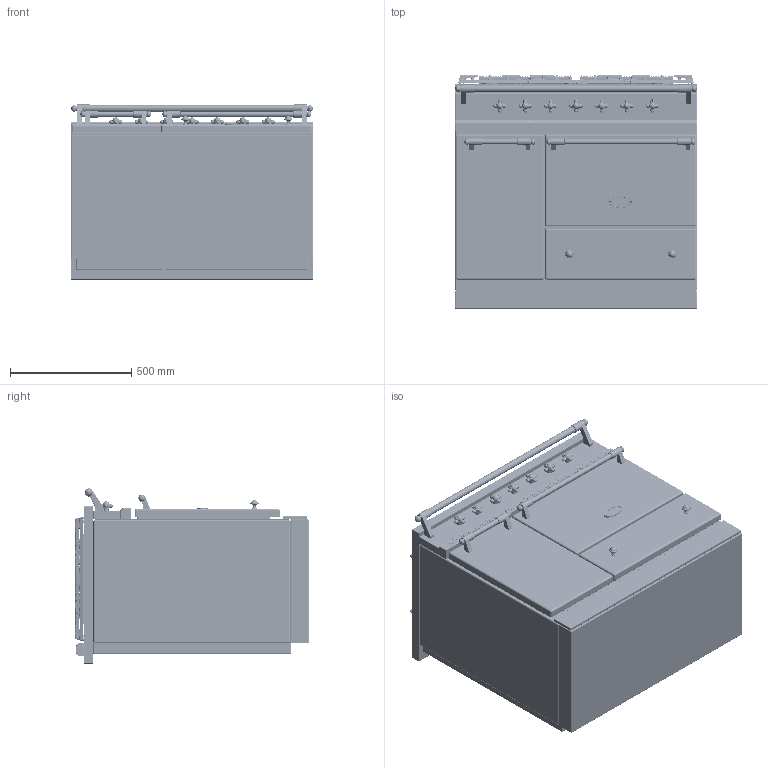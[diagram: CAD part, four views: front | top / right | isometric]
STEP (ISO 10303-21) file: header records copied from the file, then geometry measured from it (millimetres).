
FILE_DESCRIPTION((''),'2;1');
FILE_NAME('VUES_DXF_ASM','2021-12-02T07:48:20',('r.avril'),(''),'CREO PARAMETRIC BY PTC INC, 2017260','CREO PARAMETRIC BY PTC INC, 2017260','');
FILE_SCHEMA(('AP203_CONFIGURATION_CONTROLLED_3D_DESIGN_OF_MECHANICAL_PARTS_AND_ASSEMBLIES_MIM_LF { 1 0 10303 403 2 1 2 }'));
Products named in the file (27): BASE_EXPORT_VOLNAY; 65650003; 65650004; 6531940; 6531941; 6531943; 65049009; 65650001; 6538399; 1931942; 65080022_AF0; 6531942_ASM; BASE_EXPORT_VOLNAY_ASM; TABLE_1000_CLASSIQUE; 3KW; 5KW; 1_5KW; 4KW; 6537025; 65149005; 90000488_ASM; 6537024; 90000487_ASM; CHEMINEE_2020_LG371_EXPORT_STEP; TABLE_1000_CLASSIQUE_ASM; LG1051_VOLNAY_ASM; VUES_DXF_ASM
Assembly tree (46 placements, depth 5):
  VUES_DXF_ASM
    LG1051_VOLNAY_ASM
      BASE_EXPORT_VOLNAY_ASM
        BASE_EXPORT_VOLNAY
        65650003
        65650004
        6531940  x2
        6531941  x2
        6531943  x2
        65049009
        65650001
        6531942_ASM  x7
          6538399
          1931942
          65080022_AF0
      TABLE_1000_CLASSIQUE_ASM
        TABLE_1000_CLASSIQUE
        3KW  x2
        5KW
        1_5KW
        4KW
        90000488_ASM  x2
          6537025
          65149005
        90000487_ASM  x2
          6537024
          65149005
        CHEMINEE_2020_LG371_EXPORT_STEP  x2
Bounding box: 1000 x 965 x 724 mm (x, y, z)
Volume: 534012777.5 mm3; surface area: 8861898.2 mm2
Topology: 67 solids, 75 shells, 7635 faces, 19694 edges, 12114 vertices
Faces by surface type: plane 3024, cylinder 2284, bspline 1176, cone 372, torus 279, sphere 250, extrusion 238, revolution 12
Entity records: 148264 total; most frequent: CARTESIAN_POINT 47068, ORIENTED_EDGE 16926, DIRECTION 15236, EDGE_CURVE 8473, AXIS2_PLACEMENT_3D 5310, VERTEX_POINT 5211, PRESENTATION_STYLE_ASSIGNMENT 4852, STYLED_ITEM 4829
